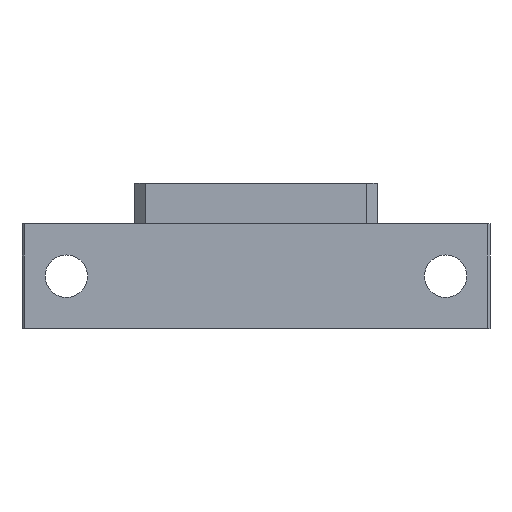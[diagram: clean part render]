
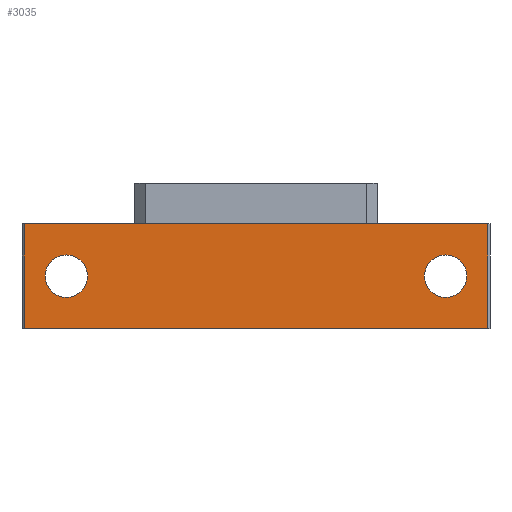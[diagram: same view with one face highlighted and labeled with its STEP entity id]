
A CAD part, front view. The second image highlights one B-rep face of the part: STEP entity #3035.
In plain terms, the highlighted planar face has unit normal (0, -1, 0).
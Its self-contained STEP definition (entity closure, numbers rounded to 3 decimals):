
#9 = AXIS2_PLACEMENT_3D ( 'NONE', #118, #2635, #2854 ) ;
#118 = CARTESIAN_POINT ( 'NONE',  ( 47., -35., 13. ) ) ;
#136 = ORIENTED_EDGE ( 'NONE', *, *, #5031, .T. ) ;
#159 = CARTESIAN_POINT ( 'NONE',  ( -47., -35., 7.75 ) ) ;
#175 = VECTOR ( 'NONE', #3442, 1000. ) ;
#181 = CIRCLE ( 'NONE', #9, 5.25 ) ;
#288 = VERTEX_POINT ( 'NONE', #3132 ) ;
#364 = AXIS2_PLACEMENT_3D ( 'NONE', #3533, #1983, #1593 ) ;
#567 = LINE ( 'NONE', #3381, #2908 ) ;
#573 = DIRECTION ( 'NONE',  ( 0., 0., 1. ) ) ;
#643 = CARTESIAN_POINT ( 'NONE',  ( -47., -35., 18.25 ) ) ;
#670 = CARTESIAN_POINT ( 'NONE',  ( -57.5, -35., 0. ) ) ;
#943 = CARTESIAN_POINT ( 'NONE',  ( -57.5, -35., 26. ) ) ;
#974 = EDGE_CURVE ( 'NONE', #1479, #3039, #4598, .T. ) ;
#1049 = CARTESIAN_POINT ( 'NONE',  ( 47., -35., 7.75 ) ) ;
#1053 = EDGE_CURVE ( 'NONE', #2509, #2188, #1067, .T. ) ;
#1067 = LINE ( 'NONE', #1901, #175 ) ;
#1095 = CARTESIAN_POINT ( 'NONE',  ( -47., -35., 13. ) ) ;
#1124 = DIRECTION ( 'NONE',  ( 0., 0., -1. ) ) ;
#1292 = EDGE_CURVE ( 'NONE', #2687, #3786, #181, .T. ) ;
#1437 = CARTESIAN_POINT ( 'NONE',  ( 47., -35., 18.25 ) ) ;
#1451 = DIRECTION ( 'NONE',  ( 0., 0., 1. ) ) ;
#1479 = VERTEX_POINT ( 'NONE', #643 ) ;
#1587 = VERTEX_POINT ( 'NONE', #2632 ) ;
#1593 = DIRECTION ( 'NONE',  ( 0., 0., 1. ) ) ;
#1805 = FACE_BOUND ( 'NONE', #4000, .T. ) ;
#1901 = CARTESIAN_POINT ( 'NONE',  ( -57.5, -35., 26. ) ) ;
#1915 = ORIENTED_EDGE ( 'NONE', *, *, #1053, .F. ) ;
#1954 = DIRECTION ( 'NONE',  ( 0., 0., 1. ) ) ;
#1983 = DIRECTION ( 'NONE',  ( 0., -1., 0. ) ) ;
#2013 = ORIENTED_EDGE ( 'NONE', *, *, #1292, .T. ) ;
#2126 = ORIENTED_EDGE ( 'NONE', *, *, #3612, .T. ) ;
#2188 = VERTEX_POINT ( 'NONE', #4886 ) ;
#2266 = CARTESIAN_POINT ( 'NONE',  ( 57.5, -35., 26. ) ) ;
#2365 = ORIENTED_EDGE ( 'NONE', *, *, #3318, .T. ) ;
#2391 = AXIS2_PLACEMENT_3D ( 'NONE', #1095, #4953, #1954 ) ;
#2509 = VERTEX_POINT ( 'NONE', #4802 ) ;
#2595 = ORIENTED_EDGE ( 'NONE', *, *, #974, .F. ) ;
#2632 = CARTESIAN_POINT ( 'NONE',  ( 57.5, -35., 0. ) ) ;
#2635 = DIRECTION ( 'NONE',  ( 0., 1., 0. ) ) ;
#2641 = EDGE_LOOP ( 'NONE', ( #136, #3972, #1915, #2126 ) ) ;
#2687 = VERTEX_POINT ( 'NONE', #1437 ) ;
#2690 = LINE ( 'NONE', #2266, #2778 ) ;
#2735 = AXIS2_PLACEMENT_3D ( 'NONE', #943, #4101, #1451 ) ;
#2778 = VECTOR ( 'NONE', #1124, 1000. ) ;
#2783 = VECTOR ( 'NONE', #5050, 1000. ) ;
#2854 = DIRECTION ( 'NONE',  ( 0., 0., 1. ) ) ;
#2908 = VECTOR ( 'NONE', #4868, 1000. ) ;
#2998 = DIRECTION ( 'NONE',  ( 0., 1., 0. ) ) ;
#3035 = ADVANCED_FACE ( 'NONE', ( #3768, #1805, #4555 ), #3344, .F. ) ;
#3039 = VERTEX_POINT ( 'NONE', #159 ) ;
#3101 = CIRCLE ( 'NONE', #4666, 5.25 ) ;
#3132 = CARTESIAN_POINT ( 'NONE',  ( -57.5, -35., 0. ) ) ;
#3318 = EDGE_CURVE ( 'NONE', #3786, #2687, #3101, .T. ) ;
#3344 = PLANE ( 'NONE',  #2735 ) ;
#3350 = EDGE_CURVE ( 'NONE', #2188, #1587, #2690, .T. ) ;
#3381 = CARTESIAN_POINT ( 'NONE',  ( -57.5, -35., 26. ) ) ;
#3407 = EDGE_LOOP ( 'NONE', ( #2595, #4810 ) ) ;
#3442 = DIRECTION ( 'NONE',  ( 1., 0., 0. ) ) ;
#3493 = CIRCLE ( 'NONE', #364, 5.25 ) ;
#3533 = CARTESIAN_POINT ( 'NONE',  ( -47., -35., 13. ) ) ;
#3612 = EDGE_CURVE ( 'NONE', #2509, #288, #567, .T. ) ;
#3768 = FACE_BOUND ( 'NONE', #3407, .T. ) ;
#3786 = VERTEX_POINT ( 'NONE', #1049 ) ;
#3972 = ORIENTED_EDGE ( 'NONE', *, *, #3350, .F. ) ;
#4000 = EDGE_LOOP ( 'NONE', ( #2013, #2365 ) ) ;
#4101 = DIRECTION ( 'NONE',  ( 0., 1., 0. ) ) ;
#4321 = EDGE_CURVE ( 'NONE', #3039, #1479, #3493, .T. ) ;
#4555 = FACE_OUTER_BOUND ( 'NONE', #2641, .T. ) ;
#4598 = CIRCLE ( 'NONE', #2391, 5.25 ) ;
#4666 = AXIS2_PLACEMENT_3D ( 'NONE', #4951, #2998, #573 ) ;
#4802 = CARTESIAN_POINT ( 'NONE',  ( -57.5, -35., 26. ) ) ;
#4810 = ORIENTED_EDGE ( 'NONE', *, *, #4321, .F. ) ;
#4868 = DIRECTION ( 'NONE',  ( 0., 0., -1. ) ) ;
#4886 = CARTESIAN_POINT ( 'NONE',  ( 57.5, -35., 26. ) ) ;
#4951 = CARTESIAN_POINT ( 'NONE',  ( 47., -35., 13. ) ) ;
#4953 = DIRECTION ( 'NONE',  ( 0., -1., 0. ) ) ;
#4994 = LINE ( 'NONE', #670, #2783 ) ;
#5031 = EDGE_CURVE ( 'NONE', #288, #1587, #4994, .T. ) ;
#5050 = DIRECTION ( 'NONE',  ( 1., 0., 0. ) ) ;
